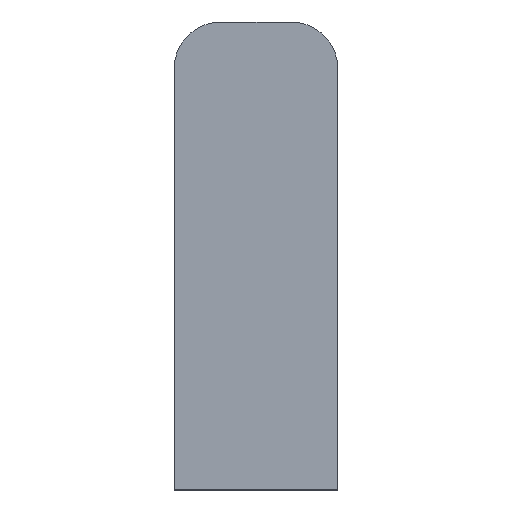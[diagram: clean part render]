
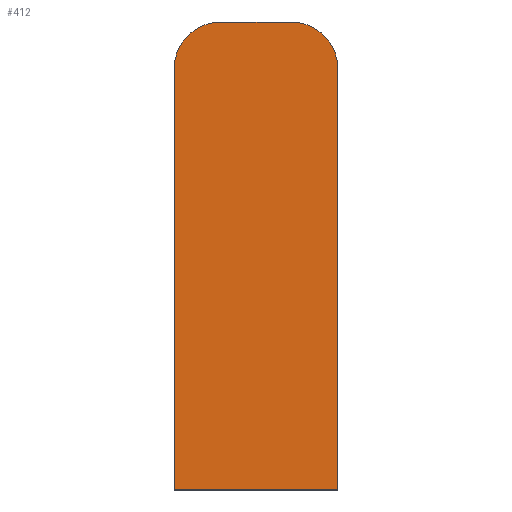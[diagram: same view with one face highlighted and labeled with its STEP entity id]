
A CAD part, front view. The second image highlights one B-rep face of the part: STEP entity #412.
In plain terms, the highlighted planar face has unit normal (0, -1, 0).
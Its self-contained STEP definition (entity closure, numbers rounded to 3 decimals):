
#1 = LINE ( 'NONE', #245, #74 ) ;
#8 = LINE ( 'NONE', #313, #98 ) ;
#34 = EDGE_LOOP ( 'NONE', ( #70, #71, #75, #76, #77, #66 ) ) ;
#66 = ORIENTED_EDGE ( 'NONE', *, *, #167, .T. ) ;
#70 = ORIENTED_EDGE ( 'NONE', *, *, #185, .T. ) ;
#71 = ORIENTED_EDGE ( 'NONE', *, *, #218, .T. ) ;
#74 = VECTOR ( 'NONE', #252, 1000. ) ;
#75 = ORIENTED_EDGE ( 'NONE', *, *, #219, .T. ) ;
#76 = ORIENTED_EDGE ( 'NONE', *, *, #176, .T. ) ;
#77 = ORIENTED_EDGE ( 'NONE', *, *, #217, .T. ) ;
#83 = VECTOR ( 'NONE', #320, 1000. ) ;
#92 = CIRCLE ( 'NONE', #200, 3. ) ;
#98 = VECTOR ( 'NONE', #314, 1000. ) ;
#116 = LINE ( 'NONE', #266, #119 ) ;
#118 = CIRCLE ( 'NONE', #186, 3. ) ;
#119 = VECTOR ( 'NONE', #275, 1000. ) ;
#134 = FACE_OUTER_BOUND ( 'NONE', #34, .T. ) ;
#157 = LINE ( 'NONE', #319, #83 ) ;
#167 = EDGE_CURVE ( 'NONE', #233, #231, #1, .T. ) ;
#176 = EDGE_CURVE ( 'NONE', #226, #244, #118, .T. ) ;
#185 = EDGE_CURVE ( 'NONE', #231, #229, #116, .T. ) ;
#186 = AXIS2_PLACEMENT_3D ( 'NONE', #269, #271, #272 ) ;
#200 = AXIS2_PLACEMENT_3D ( 'NONE', #306, #316, #317 ) ;
#215 = AXIS2_PLACEMENT_3D ( 'NONE', #377, #383, #384 ) ;
#217 = EDGE_CURVE ( 'NONE', #244, #233, #8, .T. ) ;
#218 = EDGE_CURVE ( 'NONE', #229, #237, #92, .T. ) ;
#219 = EDGE_CURVE ( 'NONE', #237, #226, #157, .T. ) ;
#226 = VERTEX_POINT ( 'NONE', #321 ) ;
#229 = VERTEX_POINT ( 'NONE', #322 ) ;
#231 = VERTEX_POINT ( 'NONE', #324 ) ;
#233 = VERTEX_POINT ( 'NONE', #325 ) ;
#237 = VERTEX_POINT ( 'NONE', #329 ) ;
#244 = VERTEX_POINT ( 'NONE', #336 ) ;
#245 = CARTESIAN_POINT ( 'NONE',  ( 5.25, 0., -16.5 ) ) ;
#252 = DIRECTION ( 'NONE',  ( 1., 0., 0. ) ) ;
#266 = CARTESIAN_POINT ( 'NONE',  ( 5.25, 0., -16.5 ) ) ;
#269 = CARTESIAN_POINT ( 'NONE',  ( -2.25, 0., 10.5 ) ) ;
#271 = DIRECTION ( 'NONE',  ( 0., -1., 0. ) ) ;
#272 = DIRECTION ( 'NONE',  ( -1., 0., 0. ) ) ;
#275 = DIRECTION ( 'NONE',  ( 0., 0., 1. ) ) ;
#306 = CARTESIAN_POINT ( 'NONE',  ( 2.25, 0., 10.5 ) ) ;
#313 = CARTESIAN_POINT ( 'NONE',  ( -5.25, 0., -16.5 ) ) ;
#314 = DIRECTION ( 'NONE',  ( 0., 0., -1. ) ) ;
#316 = DIRECTION ( 'NONE',  ( 0., -1., 0. ) ) ;
#317 = DIRECTION ( 'NONE',  ( -1., 0., 0. ) ) ;
#319 = CARTESIAN_POINT ( 'NONE',  ( 2.25, 0., 13.5 ) ) ;
#320 = DIRECTION ( 'NONE',  ( -1., 0., 0. ) ) ;
#321 = CARTESIAN_POINT ( 'NONE',  ( -2.25, 0., 13.5 ) ) ;
#322 = CARTESIAN_POINT ( 'NONE',  ( 5.25, 0., 10.5 ) ) ;
#324 = CARTESIAN_POINT ( 'NONE',  ( 5.25, 0., -16.5 ) ) ;
#325 = CARTESIAN_POINT ( 'NONE',  ( -5.25, 0., -16.5 ) ) ;
#329 = CARTESIAN_POINT ( 'NONE',  ( 2.25, 0., 13.5 ) ) ;
#336 = CARTESIAN_POINT ( 'NONE',  ( -5.25, 0., 10.5 ) ) ;
#374 = PLANE ( 'NONE',  #215 ) ;
#377 = CARTESIAN_POINT ( 'NONE',  ( 0., 0., -1.5 ) ) ;
#383 = DIRECTION ( 'NONE',  ( 0., 1., 0. ) ) ;
#384 = DIRECTION ( 'NONE',  ( -1., 0., 0. ) ) ;
#412 = ADVANCED_FACE ( 'NONE', ( #134 ), #374, .F. ) ;
